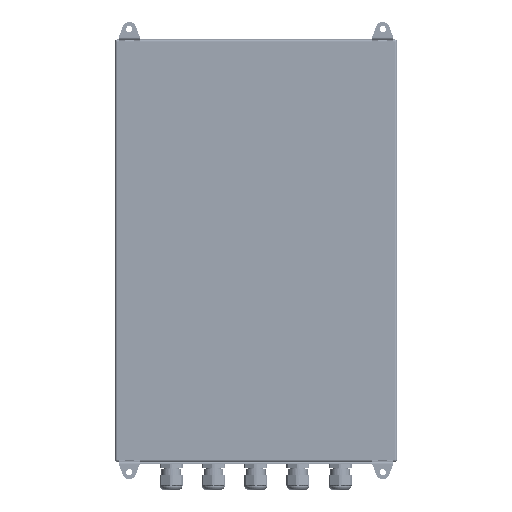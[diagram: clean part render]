
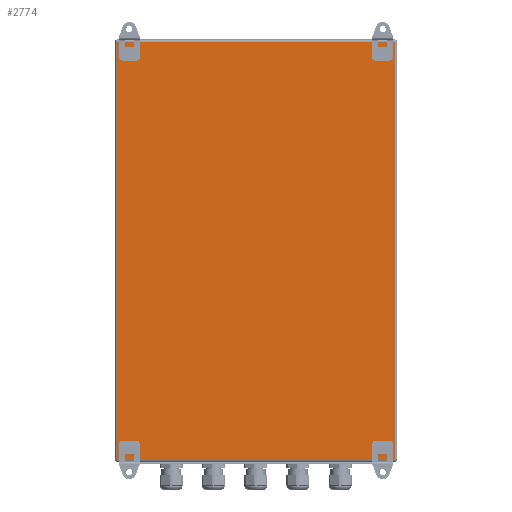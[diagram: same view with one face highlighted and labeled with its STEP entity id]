
A CAD part, front view. The second image highlights one B-rep face of the part: STEP entity #2774.
In plain terms, the highlighted planar face has unit normal (0, -1, 0) as drawn and (0, 0, -1) by its records, which use the part's own axes.
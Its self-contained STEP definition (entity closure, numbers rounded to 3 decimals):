
#2774=ADVANCED_FACE('',(#27091,#27093,#27095,#27097,#27099),#27101,.T.);
#27091=FACE_BOUND('',#27092,.T.);
#27092=EDGE_LOOP('',(#62354,#62355,#62356,#62357));
#27093=FACE_BOUND('',#27094,.T.);
#27094=EDGE_LOOP('',(#62358));
#27095=FACE_BOUND('',#27096,.T.);
#27096=EDGE_LOOP('',(#62359));
#27097=FACE_BOUND('',#27098,.T.);
#27098=EDGE_LOOP('',(#62360));
#27099=FACE_BOUND('',#27100,.T.);
#27100=EDGE_LOOP('',(#62361));
#27101=PLANE('',#27102);
#27102=AXIS2_PLACEMENT_3D('',#27103,#27104,#27105);
#27103=CARTESIAN_POINT('',(0.,0.,-95.));
#27104=DIRECTION('',(0.,0.,-1.));
#27105=DIRECTION('',(-1.,0.,0.));
#62354=ORIENTED_EDGE('',*,*,#83470,.T.);
#62355=ORIENTED_EDGE('',*,*,#83471,.T.);
#62356=ORIENTED_EDGE('',*,*,#83472,.T.);
#62357=ORIENTED_EDGE('',*,*,#83473,.T.);
#62358=ORIENTED_EDGE('',*,*,#83394,.F.);
#62359=ORIENTED_EDGE('',*,*,#83396,.F.);
#62360=ORIENTED_EDGE('',*,*,#83398,.F.);
#62361=ORIENTED_EDGE('',*,*,#83400,.F.);
#83394=EDGE_CURVE('',#92603,#92603,#92604,.T.);
#83396=EDGE_CURVE('',#92607,#92607,#92608,.T.);
#83398=EDGE_CURVE('',#92611,#92611,#92612,.T.);
#83400=EDGE_CURVE('',#92615,#92615,#92616,.T.);
#83470=EDGE_CURVE('',#92755,#92756,#92757,.T.);
#83471=EDGE_CURVE('',#92756,#92758,#92759,.T.);
#83472=EDGE_CURVE('',#92758,#92760,#92761,.T.);
#83473=EDGE_CURVE('',#92760,#92755,#92762,.T.);
#92603=VERTEX_POINT('',#118983);
#92604=CIRCLE('',#118984,4.5);
#92607=VERTEX_POINT('',#118993);
#92608=CIRCLE('',#118994,4.5);
#92611=VERTEX_POINT('',#119003);
#92612=CIRCLE('',#119004,4.5);
#92615=VERTEX_POINT('',#119013);
#92616=CIRCLE('',#119014,4.5);
#92755=VERTEX_POINT('',#119622);
#92756=VERTEX_POINT('',#119623);
#92757=LINE('',#119624,#119625);
#92758=VERTEX_POINT('',#119627);
#92759=LINE('',#119628,#119629);
#92760=VERTEX_POINT('',#119631);
#92761=LINE('',#119632,#119633);
#92762=LINE('',#119635,#119636);
#118983=CARTESIAN_POINT('',(175.5,-280.,-95.));
#118984=AXIS2_PLACEMENT_3D('',#118985,#118986,#118987);
#118985=CARTESIAN_POINT('',(180.,-280.,-95.));
#118986=DIRECTION('',(0.,0.,-1.));
#118987=DIRECTION('',(1.,0.,0.));
#118993=CARTESIAN_POINT('',(-184.5,-280.,-95.));
#118994=AXIS2_PLACEMENT_3D('',#118995,#118996,#118997);
#118995=CARTESIAN_POINT('',(-180.,-280.,-95.));
#118996=DIRECTION('',(0.,0.,-1.));
#118997=DIRECTION('',(1.,0.,0.));
#119003=CARTESIAN_POINT('',(175.5,280.,-95.));
#119004=AXIS2_PLACEMENT_3D('',#119005,#119006,#119007);
#119005=CARTESIAN_POINT('',(180.,280.,-95.));
#119006=DIRECTION('',(0.,0.,-1.));
#119007=DIRECTION('',(1.,0.,0.));
#119013=CARTESIAN_POINT('',(-184.5,280.,-95.));
#119014=AXIS2_PLACEMENT_3D('',#119015,#119016,#119017);
#119015=CARTESIAN_POINT('',(-180.,280.,-95.));
#119016=DIRECTION('',(0.,0.,-1.));
#119017=DIRECTION('',(1.,0.,0.));
#119622=CARTESIAN_POINT('',(197.,297.,-95.));
#119623=CARTESIAN_POINT('',(197.,-297.,-95.));
#119624=CARTESIAN_POINT('',(197.,297.,-95.));
#119625=VECTOR('',#119626,1.);
#119626=DIRECTION('',(0.,-1.,0.));
#119627=CARTESIAN_POINT('',(-197.,-297.,-95.));
#119628=CARTESIAN_POINT('',(197.,-297.,-95.));
#119629=VECTOR('',#119630,1.);
#119630=DIRECTION('',(-1.,0.,0.));
#119631=CARTESIAN_POINT('',(-197.,297.,-95.));
#119632=CARTESIAN_POINT('',(-197.,-297.,-95.));
#119633=VECTOR('',#119634,1.);
#119634=DIRECTION('',(0.,1.,0.));
#119635=CARTESIAN_POINT('',(-197.,297.,-95.));
#119636=VECTOR('',#119637,1.);
#119637=DIRECTION('',(1.,0.,0.));
